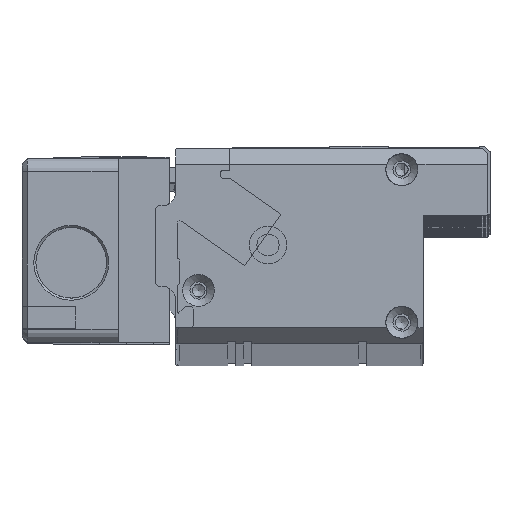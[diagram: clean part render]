
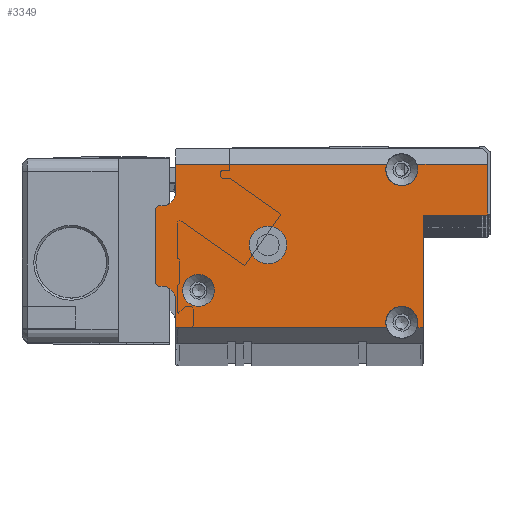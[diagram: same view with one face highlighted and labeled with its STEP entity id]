
A CAD part, top view. The second image highlights one B-rep face of the part: STEP entity #3349.
In plain terms, the highlighted planar face has unit normal (0, 0, 1).
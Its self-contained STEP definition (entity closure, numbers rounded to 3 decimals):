
#3349=ADVANCED_FACE('',(#4533,#4534,#4535),#4183,.T.);
#4183=PLANE('',#28158);
#4533=FACE_BOUND('',#6006,.T.);
#4534=FACE_BOUND('',#6007,.T.);
#4535=FACE_BOUND('',#6008,.T.);
#6006=EDGE_LOOP('',(#14323));
#6007=EDGE_LOOP('',(#14324,#14325,#14326,#14327,#14328,#14329,#14330,#14331,
#14332,#14333,#14334,#14335,#14336,#14337,#14338,#14339,#14340,#14341,#14342,
#14343));
#6008=EDGE_LOOP('',(#14344));
#7020=CIRCLE('',#28148,3.);
#7021=CIRCLE('',#28149,3.);
#7022=CIRCLE('',#28150,0.5);
#7023=CIRCLE('',#28151,0.5);
#7024=CIRCLE('',#28152,3.);
#7025=CIRCLE('',#28153,2.5);
#7026=CIRCLE('',#28154,0.5);
#7027=CIRCLE('',#28155,0.5);
#7028=CIRCLE('',#28156,2.5);
#7029=CIRCLE('',#28157,3.5);
#14323=ORIENTED_EDGE('',*,*,#20750,.T.);
#14324=ORIENTED_EDGE('',*,*,#20751,.T.);
#14325=ORIENTED_EDGE('',*,*,#20752,.T.);
#14326=ORIENTED_EDGE('',*,*,#20753,.T.);
#14327=ORIENTED_EDGE('',*,*,#20754,.T.);
#14328=ORIENTED_EDGE('',*,*,#20755,.T.);
#14329=ORIENTED_EDGE('',*,*,#20756,.T.);
#14330=ORIENTED_EDGE('',*,*,#20757,.T.);
#14331=ORIENTED_EDGE('',*,*,#20758,.T.);
#14332=ORIENTED_EDGE('',*,*,#20759,.T.);
#14333=ORIENTED_EDGE('',*,*,#20760,.T.);
#14334=ORIENTED_EDGE('',*,*,#20761,.T.);
#14335=ORIENTED_EDGE('',*,*,#20762,.T.);
#14336=ORIENTED_EDGE('',*,*,#20763,.T.);
#14337=ORIENTED_EDGE('',*,*,#20764,.T.);
#14338=ORIENTED_EDGE('',*,*,#20765,.T.);
#14339=ORIENTED_EDGE('',*,*,#20766,.T.);
#14340=ORIENTED_EDGE('',*,*,#20767,.T.);
#14341=ORIENTED_EDGE('',*,*,#20768,.T.);
#14342=ORIENTED_EDGE('',*,*,#20769,.T.);
#14343=ORIENTED_EDGE('',*,*,#20770,.T.);
#14344=ORIENTED_EDGE('',*,*,#20771,.T.);
#17028=VERTEX_POINT('',#44482);
#17029=VERTEX_POINT('',#44484);
#17030=VERTEX_POINT('',#44485);
#17031=VERTEX_POINT('',#44487);
#17032=VERTEX_POINT('',#44489);
#17033=VERTEX_POINT('',#44491);
#17034=VERTEX_POINT('',#44493);
#17035=VERTEX_POINT('',#44495);
#17036=VERTEX_POINT('',#44497);
#17037=VERTEX_POINT('',#44499);
#17038=VERTEX_POINT('',#44501);
#17039=VERTEX_POINT('',#44503);
#17040=VERTEX_POINT('',#44505);
#17041=VERTEX_POINT('',#44507);
#17042=VERTEX_POINT('',#44509);
#17043=VERTEX_POINT('',#44511);
#17044=VERTEX_POINT('',#44513);
#17045=VERTEX_POINT('',#44515);
#17046=VERTEX_POINT('',#44517);
#17047=VERTEX_POINT('',#44519);
#17048=VERTEX_POINT('',#44521);
#17049=VERTEX_POINT('',#44524);
#20750=EDGE_CURVE('',#17028,#17028,#7020,.T.);
#20751=EDGE_CURVE('',#17029,#17030,#7021,.T.);
#20752=EDGE_CURVE('',#17030,#17031,#23224,.T.);
#20753=EDGE_CURVE('',#17031,#17032,#23225,.T.);
#20754=EDGE_CURVE('',#17032,#17033,#7022,.T.);
#20755=EDGE_CURVE('',#17033,#17034,#23226,.T.);
#20756=EDGE_CURVE('',#17034,#17035,#7023,.T.);
#20757=EDGE_CURVE('',#17035,#17036,#23227,.T.);
#20758=EDGE_CURVE('',#17036,#17037,#23228,.T.);
#20759=EDGE_CURVE('',#17037,#17038,#7024,.T.);
#20760=EDGE_CURVE('',#17038,#17039,#23229,.T.);
#20761=EDGE_CURVE('',#17039,#17040,#23230,.T.);
#20762=EDGE_CURVE('',#17040,#17041,#7025,.T.);
#20763=EDGE_CURVE('',#17041,#17042,#23231,.T.);
#20764=EDGE_CURVE('',#17042,#17043,#7026,.T.);
#20765=EDGE_CURVE('',#17043,#17044,#23232,.T.);
#20766=EDGE_CURVE('',#17044,#17045,#7027,.T.);
#20767=EDGE_CURVE('',#17045,#17046,#23233,.T.);
#20768=EDGE_CURVE('',#17046,#17047,#7028,.T.);
#20769=EDGE_CURVE('',#17047,#17048,#23234,.T.);
#20770=EDGE_CURVE('',#17048,#17029,#23235,.T.);
#20771=EDGE_CURVE('',#17049,#17049,#7029,.T.);
#23224=LINE('',#44486,#25664);
#23225=LINE('',#44488,#25665);
#23226=LINE('',#44492,#25666);
#23227=LINE('',#44496,#25667);
#23228=LINE('',#44498,#25668);
#23229=LINE('',#44502,#25669);
#23230=LINE('',#44504,#25670);
#23231=LINE('',#44508,#25671);
#23232=LINE('',#44512,#25672);
#23233=LINE('',#44516,#25673);
#23234=LINE('',#44520,#25674);
#23235=LINE('',#44522,#25675);
#25664=VECTOR('',#35387,1.);
#25665=VECTOR('',#35388,1.);
#25666=VECTOR('',#35391,1.);
#25667=VECTOR('',#35394,1.);
#25668=VECTOR('',#35395,1.);
#25669=VECTOR('',#35398,1.);
#25670=VECTOR('',#35399,1.);
#25671=VECTOR('',#35402,1.);
#25672=VECTOR('',#35405,1.);
#25673=VECTOR('',#35408,1.);
#25674=VECTOR('',#35411,1.);
#25675=VECTOR('',#35412,1.);
#28148=AXIS2_PLACEMENT_3D('',#44481,#35383,#35384);
#28149=AXIS2_PLACEMENT_3D('',#44483,#35385,#35386);
#28150=AXIS2_PLACEMENT_3D('',#44490,#35389,#35390);
#28151=AXIS2_PLACEMENT_3D('',#44494,#35392,#35393);
#28152=AXIS2_PLACEMENT_3D('',#44500,#35396,#35397);
#28153=AXIS2_PLACEMENT_3D('',#44506,#35400,#35401);
#28154=AXIS2_PLACEMENT_3D('',#44510,#35403,#35404);
#28155=AXIS2_PLACEMENT_3D('',#44514,#35406,#35407);
#28156=AXIS2_PLACEMENT_3D('',#44518,#35409,#35410);
#28157=AXIS2_PLACEMENT_3D('',#44523,#35413,#35414);
#28158=AXIS2_PLACEMENT_3D('',#44525,#35415,#35416);
#35383=DIRECTION('',(0.,0.,-1.));
#35384=DIRECTION('',(-1.,0.,0.));
#35385=DIRECTION('',(0.,0.,-1.));
#35386=DIRECTION('',(-1.,0.,0.));
#35387=DIRECTION('',(1.,0.,0.));
#35388=DIRECTION('',(0.,1.,0.));
#35389=DIRECTION('',(0.,0.,-1.));
#35390=DIRECTION('',(1.,0.,0.));
#35391=DIRECTION('',(1.,0.,0.));
#35392=DIRECTION('',(0.,0.,1.));
#35393=DIRECTION('',(1.,0.,0.));
#35394=DIRECTION('',(0.,1.,0.));
#35395=DIRECTION('',(-1.,0.,0.));
#35396=DIRECTION('',(0.,0.,-1.));
#35397=DIRECTION('',(-1.,0.,0.));
#35398=DIRECTION('',(-1.,0.,0.));
#35399=DIRECTION('',(0.,-1.,0.));
#35400=DIRECTION('',(0.,0.,-1.));
#35401=DIRECTION('',(1.,0.,0.));
#35402=DIRECTION('',(-1.,0.,0.));
#35403=DIRECTION('',(0.,0.,1.));
#35404=DIRECTION('',(1.,0.,0.));
#35405=DIRECTION('',(0.,-1.,0.));
#35406=DIRECTION('',(0.,0.,1.));
#35407=DIRECTION('',(1.,0.,0.));
#35408=DIRECTION('',(1.,0.,0.));
#35409=DIRECTION('',(0.,0.,-1.));
#35410=DIRECTION('',(1.,0.,0.));
#35411=DIRECTION('',(0.,-1.,0.));
#35412=DIRECTION('',(1.,0.,0.));
#35413=DIRECTION('',(0.,0.,-1.));
#35414=DIRECTION('',(-1.,0.,0.));
#35415=DIRECTION('',(0.,0.,1.));
#35416=DIRECTION('',(-1.,0.,0.));
#44481=CARTESIAN_POINT('',(8.,-26.6,8.));
#44482=CARTESIAN_POINT('',(5.,-26.6,8.));
#44483=CARTESIAN_POINT('',(46.,-32.6,8.));
#44484=CARTESIAN_POINT('',(43.172,-33.6,8.));
#44485=CARTESIAN_POINT('',(48.828,-33.6,8.));
#44486=CARTESIAN_POINT('',(50.,-33.6,8.));
#44487=CARTESIAN_POINT('',(50.,-33.6,8.));
#44488=CARTESIAN_POINT('',(50.,-36.6,8.));
#44489=CARTESIAN_POINT('',(50.,-13.1,8.));
#44490=CARTESIAN_POINT('',(50.5,-13.1,8.));
#44491=CARTESIAN_POINT('',(50.5,-12.6,8.));
#44492=CARTESIAN_POINT('',(50.,-12.6,8.));
#44493=CARTESIAN_POINT('',(61.6,-12.6,8.));
#44494=CARTESIAN_POINT('',(61.6,-12.1,8.));
#44495=CARTESIAN_POINT('',(62.1,-12.1,8.));
#44496=CARTESIAN_POINT('',(62.1,-12.6,8.));
#44497=CARTESIAN_POINT('',(62.1,-3.,8.));
#44498=CARTESIAN_POINT('',(3.7,-3.,8.));
#44499=CARTESIAN_POINT('',(48.828,-3.,8.));
#44500=CARTESIAN_POINT('',(46.,-4.,8.));
#44501=CARTESIAN_POINT('',(43.172,-3.,8.));
#44502=CARTESIAN_POINT('',(3.7,-3.,8.));
#44503=CARTESIAN_POINT('',(3.7,-3.,8.));
#44504=CARTESIAN_POINT('',(3.7,0.,8.));
#44505=CARTESIAN_POINT('',(3.7,-8.3,8.));
#44506=CARTESIAN_POINT('',(1.2,-8.3,8.));
#44507=CARTESIAN_POINT('',(1.2,-10.8,8.));
#44508=CARTESIAN_POINT('',(3.7,-10.8,8.));
#44509=CARTESIAN_POINT('',(0.5,-10.8,8.));
#44510=CARTESIAN_POINT('',(0.5,-11.3,8.));
#44511=CARTESIAN_POINT('',(0.,-11.3,8.));
#44512=CARTESIAN_POINT('',(0.,-10.8,8.));
#44513=CARTESIAN_POINT('',(0.,-25.3,8.));
#44514=CARTESIAN_POINT('',(0.5,-25.3,8.));
#44515=CARTESIAN_POINT('',(0.5,-25.8,8.));
#44516=CARTESIAN_POINT('',(0.,-25.8,8.));
#44517=CARTESIAN_POINT('',(1.2,-25.8,8.));
#44518=CARTESIAN_POINT('',(1.2,-28.3,8.));
#44519=CARTESIAN_POINT('',(3.7,-28.3,8.));
#44520=CARTESIAN_POINT('',(3.7,-25.8,8.));
#44521=CARTESIAN_POINT('',(3.7,-33.6,8.));
#44522=CARTESIAN_POINT('',(50.,-33.6,8.));
#44523=CARTESIAN_POINT('',(21.,-18.1,8.));
#44524=CARTESIAN_POINT('',(17.5,-18.1,8.));
#44525=CARTESIAN_POINT('',(0.,0.,8.));
